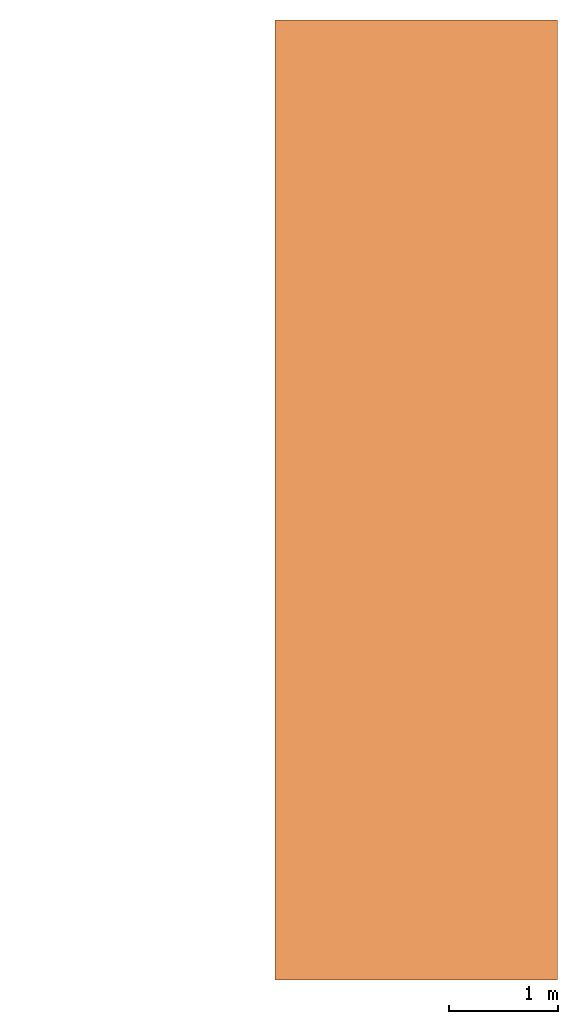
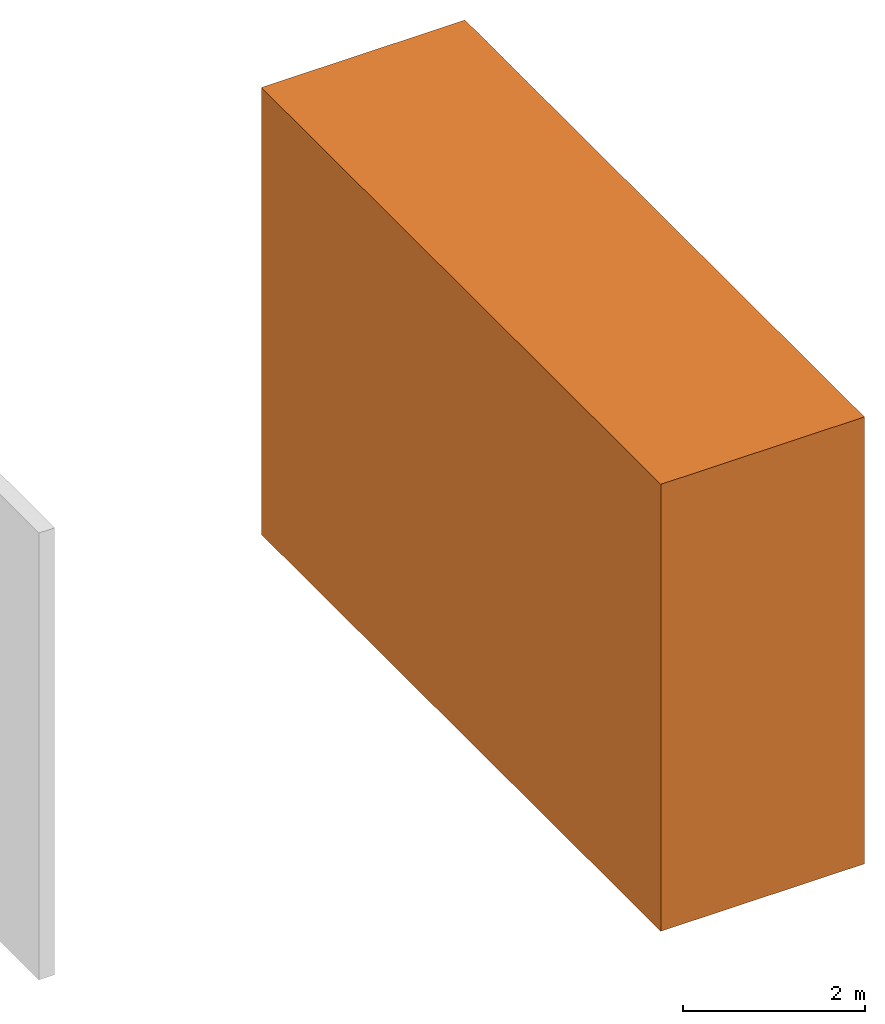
# One storey, part 2 of 2: 1 proxy.
"""IFC2X3 building model written with IfcOpenShell, lengths in metres."""

from ifc_helpers import new_model, entity, si_unit, converted_unit, derived_unit, direction, frame, frame_2d, origin, place, context, subcontext, project, spatial, rectangle, extrude, source, transform, mapped, material, type_object, type_shapes, element, save


model = new_model("IFC2X3")

# Units and contexts
model_context = context("Model", 3, precision=1e-05, world=origin(), true_north=direction((6.12303176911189e-17, 1.0)))
body_context = subcontext(model_context, "Body", "Model", "MODEL_VIEW")
ifc_project = project(units=[si_unit("LENGTHUNIT", "METRE"), si_unit("AREAUNIT", "SQUARE_METRE"), si_unit("VOLUMEUNIT", "CUBIC_METRE"), converted_unit("PLANEANGLEUNIT", "DEGREE", entity("IfcRatioMeasure", 0.0174532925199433), si_unit("PLANEANGLEUNIT", "RADIAN"), dimensions=[0, 0, 0, 0, 0, 0, 0]), si_unit("MASSUNIT", "GRAM", prefix="KILO"), derived_unit("MASSDENSITYUNIT", [(si_unit("MASSUNIT", "GRAM", prefix="KILO"), 1), (si_unit("LENGTHUNIT", "METRE"), -3)]), derived_unit("MOMENTOFINERTIAUNIT", [(si_unit("LENGTHUNIT", "METRE"), 4)]), si_unit("TIMEUNIT", "SECOND"), si_unit("FREQUENCYUNIT", "HERTZ"), si_unit("THERMODYNAMICTEMPERATUREUNIT", "DEGREE_CELSIUS"), derived_unit("THERMALTRANSMITTANCEUNIT", [(si_unit("MASSUNIT", "GRAM", prefix="KILO"), 1), (si_unit("THERMODYNAMICTEMPERATUREUNIT", "KELVIN"), -1), (si_unit("TIMEUNIT", "SECOND"), -3)]), derived_unit("VOLUMETRICFLOWRATEUNIT", [(si_unit("LENGTHUNIT", "METRE"), 3), (si_unit("TIMEUNIT", "SECOND"), -1)]), si_unit("ELECTRICCURRENTUNIT", "AMPERE"), si_unit("ELECTRICVOLTAGEUNIT", "VOLT"), si_unit("POWERUNIT", "WATT"), si_unit("FORCEUNIT", "NEWTON", prefix="KILO"), si_unit("ILLUMINANCEUNIT", "LUX"), si_unit("LUMINOUSFLUXUNIT", "LUMEN"), si_unit("LUMINOUSINTENSITYUNIT", "CANDELA"), derived_unit("USERDEFINED", [(si_unit("MASSUNIT", "GRAM", prefix="KILO"), -1), (si_unit("LENGTHUNIT", "METRE"), -2), (si_unit("TIMEUNIT", "SECOND"), 3), (si_unit("LUMINOUSFLUXUNIT", "LUMEN"), 1)]), derived_unit("LINEARVELOCITYUNIT", [(si_unit("LENGTHUNIT", "METRE"), 1), (si_unit("TIMEUNIT", "SECOND"), -1)]), si_unit("PRESSUREUNIT", "PASCAL"), derived_unit("USERDEFINED", [(si_unit("LENGTHUNIT", "METRE"), -2), (si_unit("MASSUNIT", "GRAM", prefix="KILO"), 1), (si_unit("TIMEUNIT", "SECOND"), -2)]), derived_unit("LINEARFORCEUNIT", [(si_unit("MASSUNIT", "GRAM", prefix="KILO"), 1), (si_unit("LENGTHUNIT", "METRE"), 1), (si_unit("TIMEUNIT", "SECOND"), -2), (si_unit("LENGTHUNIT", "METRE"), -1)]), derived_unit("PLANARFORCEUNIT", [(si_unit("MASSUNIT", "GRAM", prefix="KILO"), 1), (si_unit("LENGTHUNIT", "METRE"), 1), (si_unit("TIMEUNIT", "SECOND"), -2), (si_unit("LENGTHUNIT", "METRE"), -2)])], contexts=[model_context])

# Site, building, storey
site_placement = place(None, frame((0.0, 0.0, 57.0)))
site = spatial("IfcSite", under=ifc_project, at=site_placement, Name="Default", CompositionType="ELEMENT")
building_placement = place(site_placement, origin())
building = spatial("IfcBuilding", under=site, at=building_placement, CompositionType="ELEMENT")
storey_placement = place(building_placement, frame((0.0, 0.0, 1.0)))
storey = spatial("IfcBuildingStorey", under=building, at=storey_placement, Name="Level 1", CompositionType="ELEMENT", Elevation=1.0)

# Proxy
ifc_material = material(Name="<Unnamed>")
building_element_proxy_type = type_object("IfcBuildingElementProxyType", Name="Generic Models 1:Generic Models 1", PredefinedType="NOTDEFINED", material=ifc_material)
shared_shape = source(origin(), body_context, "Body", "SweptSolid", [
    extrude(rectangle(XDim=8.78633852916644, YDim=2.58609214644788, at=frame_2d((0.0, -5.55111512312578e-16), x_axis=(1.0, 0.0))), frame((6.57470329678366, -1.12877037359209, 1.0), z_axis=(0.0, 0.0, 1.0), x_axis=(0.0, -1.0, 0.0)), (0.0, 0.0, 1.0), 6.0),
])
type_shapes(building_element_proxy_type, [shared_shape])
proxy_placement = place(storey_placement, frame((7.32754640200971, 0.0, -1.0)))
element("IfcBuildingElementProxy", 1, at=proxy_placement, inside=storey, type_object=building_element_proxy_type, material=ifc_material, Name="Generic Models 1:Generic Models 1", ObjectType="Generic Models 1:Generic Models 1", context=body_context, shape_type="MappedRepresentation", body=[
    mapped(shared_shape, transform((0.0, 0.0, 0.0), scale=1.0)),
])

save(model, "model.ifc")
